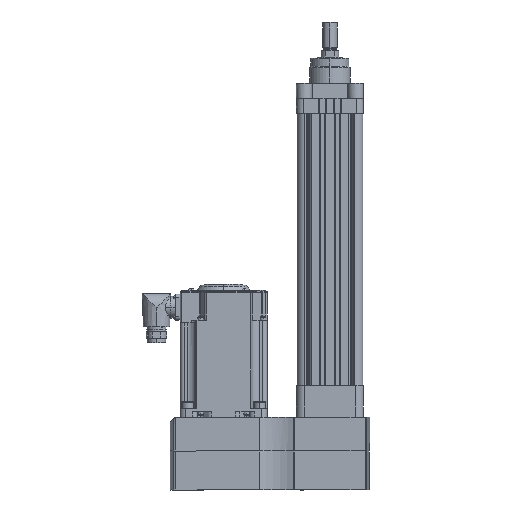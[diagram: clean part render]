
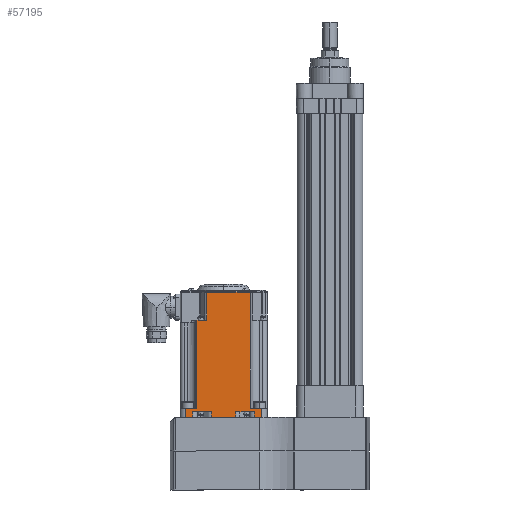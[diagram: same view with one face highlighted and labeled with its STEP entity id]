
A CAD part, left-side view. The second image highlights one B-rep face of the part: STEP entity #57195.
In plain terms, the highlighted planar face has unit normal (-1, 0, 0) as drawn and (0, 0, 1) by its records, which use the part's own axes.
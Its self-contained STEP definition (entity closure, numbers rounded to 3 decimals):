
#6597 = VERTEX_POINT ( 'NONE', #51089 ) ;
#6598 = VERTEX_POINT ( 'NONE', #51090 ) ;
#6630 = VERTEX_POINT ( 'NONE', #51122 ) ;
#6631 = VERTEX_POINT ( 'NONE', #51123 ) ;
#6646 = VERTEX_POINT ( 'NONE', #51138 ) ;
#6647 = VERTEX_POINT ( 'NONE', #51139 ) ;
#6699 = VERTEX_POINT ( 'NONE', #51191 ) ;
#6700 = VERTEX_POINT ( 'NONE', #51192 ) ;
#6701 = VERTEX_POINT ( 'NONE', #51193 ) ;
#6702 = VERTEX_POINT ( 'NONE', #51194 ) ;
#6703 = VERTEX_POINT ( 'NONE', #51195 ) ;
#6704 = VERTEX_POINT ( 'NONE', #51196 ) ;
#6705 = VERTEX_POINT ( 'NONE', #51197 ) ;
#6706 = VERTEX_POINT ( 'NONE', #51198 ) ;
#6707 = VERTEX_POINT ( 'NONE', #51199 ) ;
#6708 = VERTEX_POINT ( 'NONE', #51200 ) ;
#6709 = VERTEX_POINT ( 'NONE', #51201 ) ;
#6710 = VERTEX_POINT ( 'NONE', #51202 ) ;
#7026 = EDGE_LOOP ( 'NONE', ( #9261, #9263, #9262, #9264, #9265, #9266, #9268, #9267, #9269, #9270, #9272, #9271, #9273, #9274, #9275, #9276, #9277, #9278 ) ) ;
#7265 = EDGE_CURVE ( 'NONE', #6597, #6598, #51730, .T. ) ;
#7303 = EDGE_CURVE ( 'NONE', #6630, #6631, #51844, .T. ) ;
#7325 = EDGE_CURVE ( 'NONE', #6646, #6647, #51910, .T. ) ;
#7392 = EDGE_CURVE ( 'NONE', #6700, #6701, #52111, .T. ) ;
#7393 = EDGE_CURVE ( 'NONE', #6699, #6700, #52114, .T. ) ;
#7394 = EDGE_CURVE ( 'NONE', #6702, #6701, #52117, .T. ) ;
#7395 = EDGE_CURVE ( 'NONE', #6702, #6647, #52120, .T. ) ;
#7396 = EDGE_CURVE ( 'NONE', #6646, #6703, #52123, .T. ) ;
#7397 = EDGE_CURVE ( 'NONE', #6704, #6703, #52126, .T. ) ;
#7398 = EDGE_CURVE ( 'NONE', #6704, #6631, #52129, .T. ) ;
#7399 = EDGE_CURVE ( 'NONE', #6630, #6705, #52132, .T. ) ;
#7400 = EDGE_CURVE ( 'NONE', #6706, #6705, #52135, .T. ) ;
#7401 = EDGE_CURVE ( 'NONE', #6706, #6707, #52138, .T. ) ;
#7402 = EDGE_CURVE ( 'NONE', #6707, #6708, #52141, .T. ) ;
#7403 = EDGE_CURVE ( 'NONE', #6708, #6709, #52144, .T. ) ;
#7404 = EDGE_CURVE ( 'NONE', #6709, #6710, #52147, .T. ) ;
#7405 = EDGE_CURVE ( 'NONE', #6710, #6598, #52150, .T. ) ;
#7406 = EDGE_CURVE ( 'NONE', #6597, #6699, #52302, .T. ) ;
#9261 = ORIENTED_EDGE ( 'NONE', *, *, #7393, .T. ) ;
#9262 = ORIENTED_EDGE ( 'NONE', *, *, #7394, .F. ) ;
#9263 = ORIENTED_EDGE ( 'NONE', *, *, #7392, .T. ) ;
#9264 = ORIENTED_EDGE ( 'NONE', *, *, #7395, .T. ) ;
#9265 = ORIENTED_EDGE ( 'NONE', *, *, #7325, .F. ) ;
#9266 = ORIENTED_EDGE ( 'NONE', *, *, #7396, .T. ) ;
#9267 = ORIENTED_EDGE ( 'NONE', *, *, #7398, .T. ) ;
#9268 = ORIENTED_EDGE ( 'NONE', *, *, #7397, .F. ) ;
#9269 = ORIENTED_EDGE ( 'NONE', *, *, #7303, .F. ) ;
#9270 = ORIENTED_EDGE ( 'NONE', *, *, #7399, .T. ) ;
#9271 = ORIENTED_EDGE ( 'NONE', *, *, #7401, .T. ) ;
#9272 = ORIENTED_EDGE ( 'NONE', *, *, #7400, .F. ) ;
#9273 = ORIENTED_EDGE ( 'NONE', *, *, #7402, .T. ) ;
#9274 = ORIENTED_EDGE ( 'NONE', *, *, #7403, .T. ) ;
#9275 = ORIENTED_EDGE ( 'NONE', *, *, #7404, .T. ) ;
#9276 = ORIENTED_EDGE ( 'NONE', *, *, #7405, .T. ) ;
#9277 = ORIENTED_EDGE ( 'NONE', *, *, #7265, .F. ) ;
#9278 = ORIENTED_EDGE ( 'NONE', *, *, #7406, .T. ) ;
#51089 = CARTESIAN_POINT ( 'NONE',  ( -109.601, -30.036, 49.149 ) ) ;
#51090 = CARTESIAN_POINT ( 'NONE',  ( -109.601, -19.177, 49.149 ) ) ;
#51122 = CARTESIAN_POINT ( 'NONE',  ( -6.35, 34.624, 49.149 ) ) ;
#51123 = CARTESIAN_POINT ( 'NONE',  ( -6.35, 13.928, 49.149 ) ) ;
#51138 = CARTESIAN_POINT ( 'NONE',  ( -6.35, -13.928, 49.149 ) ) ;
#51139 = CARTESIAN_POINT ( 'NONE',  ( -6.35, -34.624, 49.149 ) ) ;
#51191 = CARTESIAN_POINT ( 'NONE',  ( -10.16, -30.036, 49.149 ) ) ;
#51192 = CARTESIAN_POINT ( 'NONE',  ( -10.16, -42.799, 49.149 ) ) ;
#51193 = CARTESIAN_POINT ( 'NONE',  ( 0., -42.799, 49.149 ) ) ;
#51194 = CARTESIAN_POINT ( 'NONE',  ( 0., -34.624, 49.149 ) ) ;
#51195 = CARTESIAN_POINT ( 'NONE',  ( 0., -13.928, 49.149 ) ) ;
#51196 = CARTESIAN_POINT ( 'NONE',  ( 0., 13.928, 49.149 ) ) ;
#51197 = CARTESIAN_POINT ( 'NONE',  ( 0., 34.624, 49.149 ) ) ;
#51198 = CARTESIAN_POINT ( 'NONE',  ( 0., 42.799, 49.149 ) ) ;
#51199 = CARTESIAN_POINT ( 'NONE',  ( -10.16, 42.799, 49.149 ) ) ;
#51200 = CARTESIAN_POINT ( 'NONE',  ( -10.16, 30.035, 49.149 ) ) ;
#51201 = CARTESIAN_POINT ( 'NONE',  ( -140.97, 30.035, 49.149 ) ) ;
#51202 = CARTESIAN_POINT ( 'NONE',  ( -140.97, -19.177, 49.149 ) ) ;
#51456 = VECTOR ( 'NONE', #51732, 1000. ) ;
#51495 = VECTOR ( 'NONE', #51846, 1000. ) ;
#51517 = VECTOR ( 'NONE', #51912, 1000. ) ;
#51730 = LINE ( 'NONE', #51731, #51456 ) ;
#51731 = CARTESIAN_POINT ( 'NONE',  ( -109.601, -49.149, 49.149 ) ) ;
#51732 = DIRECTION ( 'NONE',  ( 0., 1., 0. ) ) ;
#51844 = LINE ( 'NONE', #51845, #51495 ) ;
#51845 = CARTESIAN_POINT ( 'NONE',  ( -6.35, 16.032, 49.149 ) ) ;
#51846 = DIRECTION ( 'NONE',  ( 0., -1., 0. ) ) ;
#51910 = LINE ( 'NONE', #51911, #51517 ) ;
#51911 = CARTESIAN_POINT ( 'NONE',  ( -6.35, -16.032, 49.149 ) ) ;
#51912 = DIRECTION ( 'NONE',  ( 0., -1., 0. ) ) ;
#52111 = LINE ( 'NONE', #52112, #52166 ) ;
#52112 = CARTESIAN_POINT ( 'NONE',  ( -106.426, -42.799, 49.149 ) ) ;
#52113 = DIRECTION ( 'NONE',  ( 1., 0., 0. ) ) ;
#52114 = LINE ( 'NONE', #52115, #52167 ) ;
#52115 = CARTESIAN_POINT ( 'NONE',  ( -10.16, -49.149, 49.149 ) ) ;
#52116 = DIRECTION ( 'NONE',  ( 0., -1., 0. ) ) ;
#52117 = LINE ( 'NONE', #52118, #52168 ) ;
#52118 = CARTESIAN_POINT ( 'NONE',  ( 0., -49.149, 49.149 ) ) ;
#52119 = DIRECTION ( 'NONE',  ( 0., -1., 0. ) ) ;
#52120 = LINE ( 'NONE', #52121, #52169 ) ;
#52121 = CARTESIAN_POINT ( 'NONE',  ( -106.426, -34.624, 49.149 ) ) ;
#52122 = DIRECTION ( 'NONE',  ( -1., 0., 0. ) ) ;
#52123 = LINE ( 'NONE', #52124, #52170 ) ;
#52124 = CARTESIAN_POINT ( 'NONE',  ( -106.426, -13.928, 49.149 ) ) ;
#52125 = DIRECTION ( 'NONE',  ( 1., 0., 0. ) ) ;
#52126 = LINE ( 'NONE', #52127, #52171 ) ;
#52127 = CARTESIAN_POINT ( 'NONE',  ( 0., -49.149, 49.149 ) ) ;
#52128 = DIRECTION ( 'NONE',  ( 0., -1., 0. ) ) ;
#52129 = LINE ( 'NONE', #52130, #52172 ) ;
#52130 = CARTESIAN_POINT ( 'NONE',  ( -106.426, 13.928, 49.149 ) ) ;
#52131 = DIRECTION ( 'NONE',  ( -1., 0., 0. ) ) ;
#52132 = LINE ( 'NONE', #52133, #52173 ) ;
#52133 = CARTESIAN_POINT ( 'NONE',  ( -106.426, 34.624, 49.149 ) ) ;
#52134 = DIRECTION ( 'NONE',  ( 1., 0., 0. ) ) ;
#52135 = LINE ( 'NONE', #52136, #52174 ) ;
#52136 = CARTESIAN_POINT ( 'NONE',  ( 0., -49.149, 49.149 ) ) ;
#52137 = DIRECTION ( 'NONE',  ( 0., -1., 0. ) ) ;
#52138 = LINE ( 'NONE', #52139, #52175 ) ;
#52139 = CARTESIAN_POINT ( 'NONE',  ( -106.426, 42.799, 49.149 ) ) ;
#52140 = DIRECTION ( 'NONE',  ( -1., 0., 0. ) ) ;
#52141 = LINE ( 'NONE', #52142, #52176 ) ;
#52142 = CARTESIAN_POINT ( 'NONE',  ( -10.16, -49.149, 49.149 ) ) ;
#52143 = DIRECTION ( 'NONE',  ( 0., -1., 0. ) ) ;
#52144 = LINE ( 'NONE', #52145, #52177 ) ;
#52145 = CARTESIAN_POINT ( 'NONE',  ( -106.426, 30.035, 49.149 ) ) ;
#52146 = DIRECTION ( 'NONE',  ( -1., 0., 0. ) ) ;
#52147 = LINE ( 'NONE', #52148, #52178 ) ;
#52148 = CARTESIAN_POINT ( 'NONE',  ( -140.97, -19.177, 49.149 ) ) ;
#52149 = DIRECTION ( 'NONE',  ( 0., -1., 0. ) ) ;
#52150 = LINE ( 'NONE', #52151, #52179 ) ;
#52151 = CARTESIAN_POINT ( 'NONE',  ( -106.426, -19.177, 49.149 ) ) ;
#52152 = DIRECTION ( 'NONE',  ( 1., 0., 0. ) ) ;
#52166 = VECTOR ( 'NONE', #52113, 1000. ) ;
#52167 = VECTOR ( 'NONE', #52116, 1000. ) ;
#52168 = VECTOR ( 'NONE', #52119, 1000. ) ;
#52169 = VECTOR ( 'NONE', #52122, 1000. ) ;
#52170 = VECTOR ( 'NONE', #52125, 1000. ) ;
#52171 = VECTOR ( 'NONE', #52128, 1000. ) ;
#52172 = VECTOR ( 'NONE', #52131, 1000. ) ;
#52173 = VECTOR ( 'NONE', #52134, 1000. ) ;
#52174 = VECTOR ( 'NONE', #52137, 1000. ) ;
#52175 = VECTOR ( 'NONE', #52140, 1000. ) ;
#52176 = VECTOR ( 'NONE', #52143, 1000. ) ;
#52177 = VECTOR ( 'NONE', #52146, 1000. ) ;
#52178 = VECTOR ( 'NONE', #52149, 1000. ) ;
#52179 = VECTOR ( 'NONE', #52152, 1000. ) ;
#52180 = VECTOR ( 'NONE', #52304, 1000. ) ;
#52302 = LINE ( 'NONE', #52303, #52180 ) ;
#52303 = CARTESIAN_POINT ( 'NONE',  ( -106.426, -30.036, 49.149 ) ) ;
#52304 = DIRECTION ( 'NONE',  ( 1., 0., 0. ) ) ;
#57195 = ADVANCED_FACE ( 'NONE', ( #70002 ), #69322, .F. ) ;
#69322 = PLANE ( 'NONE',  #70005 ) ;
#69323 = CARTESIAN_POINT ( 'NONE',  ( -106.426, 31.623, 49.149 ) ) ;
#69324 = DIRECTION ( 'NONE',  ( 0., 0., -1. ) ) ;
#69325 = DIRECTION ( 'NONE',  ( -1., 0., 0. ) ) ;
#70002 = FACE_OUTER_BOUND ( 'NONE', #7026, .T. ) ;
#70005 = AXIS2_PLACEMENT_3D ( 'NONE', #69323, #69324, #69325 ) ;
